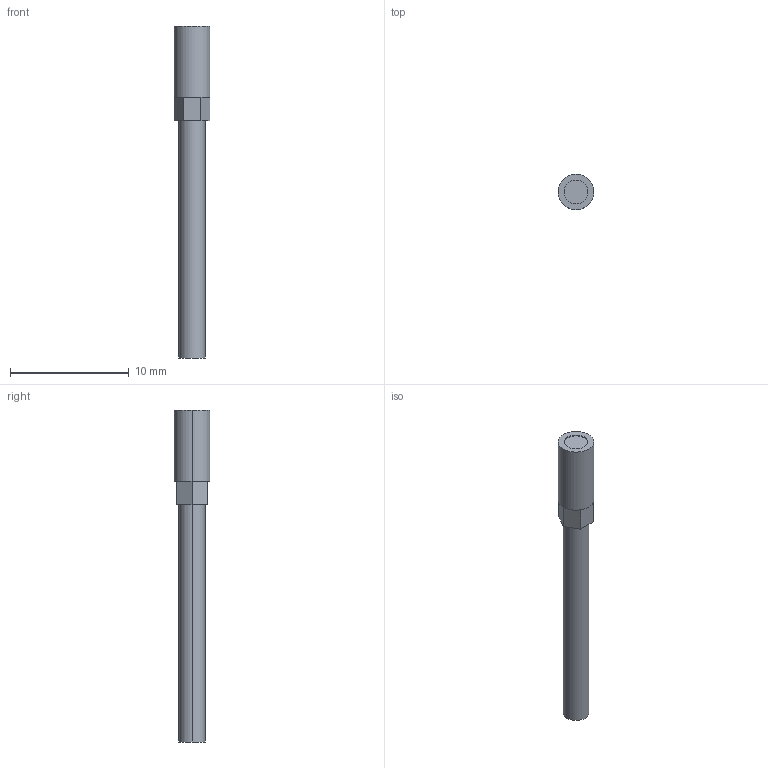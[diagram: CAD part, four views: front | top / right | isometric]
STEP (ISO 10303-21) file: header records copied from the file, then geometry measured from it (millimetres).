
FILE_DESCRIPTION (( 'STEP AP203' ), '1' );
FILE_NAME ('FT-WS8L.STEP', '2005-09-08T02:31:54', ( '' ), ( '' ), 'SwSTEP 2.0', 'SolidWorks 2004073', '' );
FILE_SCHEMA (( 'CONFIG_CONTROL_DESIGN' ));
Length unit declared in the file: millimetre
Products named in the file (1): FT-WS8L
Bounding box: 3 x 3 x 28 mm (x, y, z)
Volume: 129.8 mm3; surface area: 227.5 mm2
Topology: 1 solids, 1 shells, 22 faces, 40 edges, 22 vertices
Faces by surface type: plane 16, cylinder 6
Entity records: 605 total; most frequent: DIRECTION 102, CARTESIAN_POINT 85, ORIENTED_EDGE 80, EDGE_CURVE 40, AXIS2_PLACEMENT_3D 39, EDGE_LOOP 24, LINE 24, VECTOR 24
